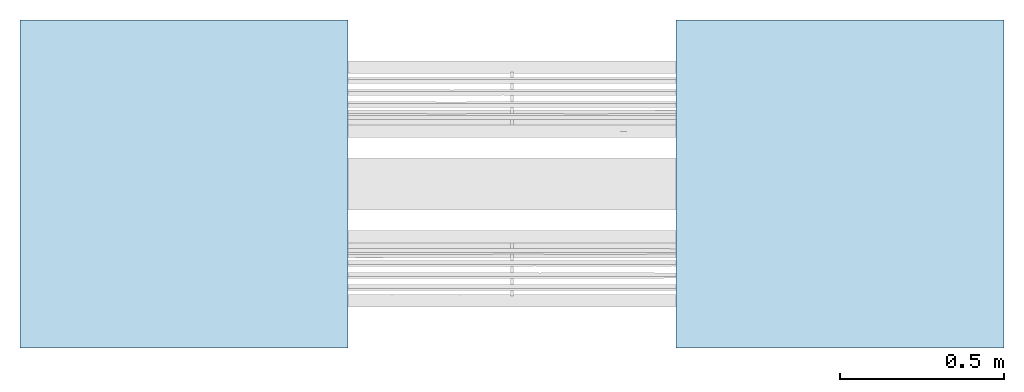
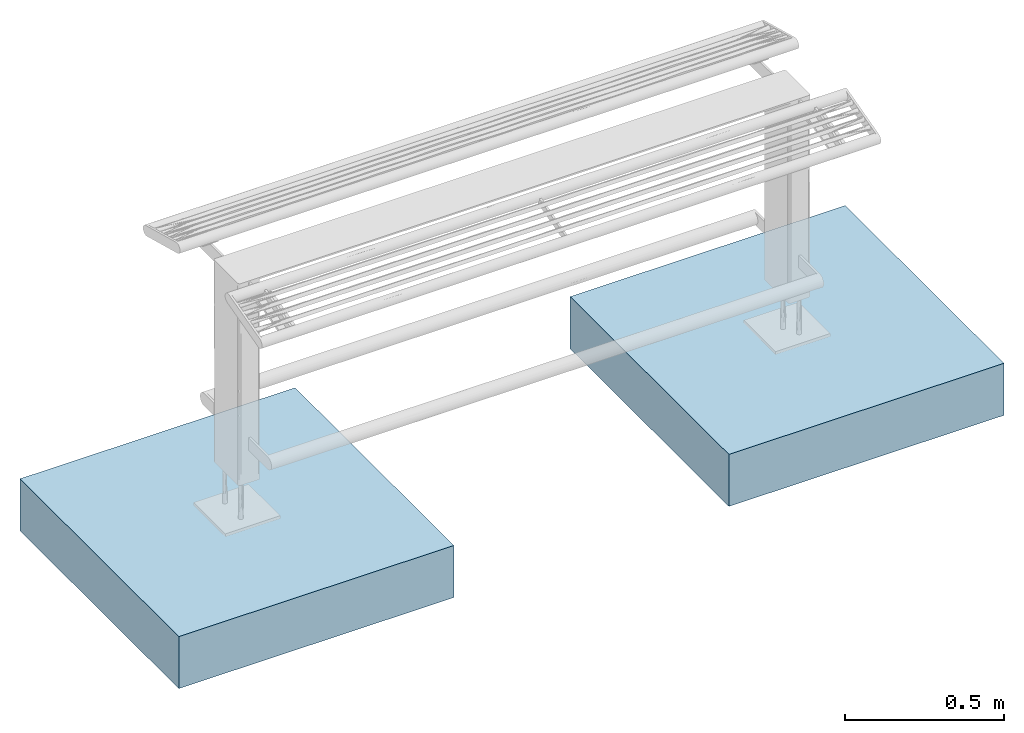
# One storey, incomplete: 2 slabs.
"""IFC4 building model written with IfcOpenShell, lengths in metres."""

from ifc_helpers import new_model, entity, si_unit, converted_unit, direction, frame, frame_2d, origin, place, context, subcontext, project, spatial, rectangle, extrude, material, type_object, element, save


model = new_model("IFC4")

# Units and contexts
model_context = context("Model", 3, precision=1e-05, world=origin(), true_north=direction((6.123031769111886e-17, 1.0)))
body_context = subcontext(model_context, "Body", "Model", "MODEL_VIEW")
ifc_project = project(units=[si_unit("LENGTHUNIT", "METRE"), converted_unit("PLANEANGLEUNIT", "DEGREE", entity("IfcPlaneAngleMeasure", 0.017453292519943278), si_unit("PLANEANGLEUNIT", "RADIAN"), dimensions=[0, 0, 0, 0, 0, 0, 0]), si_unit("AREAUNIT", "SQUARE_METRE")], contexts=[model_context])

# Site, building, storey
site_placement = place(None, origin())
site = spatial("IfcSite", under=ifc_project, at=site_placement, Name="Default", CompositionType="ELEMENT")
building_placement = place(site_placement, origin())
building = spatial("IfcBuilding", under=site, at=building_placement, CompositionType="ELEMENT")
storey_placement = place(building_placement, origin())
storey = spatial("IfcBuildingStorey", under=building, at=storey_placement, Name="Ebene 0", CompositionType="ELEMENT", Elevation=0.0)

# Slabs
ifc_material = material(Name="DB_Fertigbeton", Category="DB_Beton")
slab_type = type_object("IfcSlabType", Name="DB_Calidum_light_Fundament:DB_Calidum_light_Fundament", PredefinedType="BASESLAB", material=ifc_material)
slab_1_placement = place(storey_placement, origin())
element("IfcSlab", 1, at=slab_1_placement, inside=storey, type_object=slab_type, Name="DB_Calidum_light_Fundament:DB_Calidum_light_Fundament", ObjectType="DB_Calidum_light_Fundament:DB_Calidum_light_Fundament", PredefinedType="BASESLAB", context=body_context, shape_type="SweptSolid", body=[
    extrude(rectangle(XDim=0.9999999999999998, YDim=0.9999999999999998, at=frame_2d((0.0, -1.1102230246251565e-16), x_axis=(1.0, 0.0))), frame((1.0, 0.0, -0.3619999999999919), z_axis=(0.0, 0.0, 1.0), x_axis=(0.0, 1.0, 0.0)), (0.0, 0.0, 1.0), 0.2),
])
slab_2_placement = place(storey_placement, origin())
element("IfcSlab", 2, at=slab_2_placement, inside=storey, type_object=slab_type, Name="DB_Calidum_light_Fundament:DB_Calidum_light_Fundament", ObjectType="DB_Calidum_light_Fundament:DB_Calidum_light_Fundament", PredefinedType="BASESLAB", context=body_context, shape_type="SweptSolid", body=[
    extrude(rectangle(XDim=0.9999999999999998, YDim=0.9999999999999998, at=frame_2d((-2.7755575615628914e-17, 1.1102230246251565e-16), x_axis=(1.0, 0.0))), frame((-1.0, 0.0, -0.3619999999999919), z_axis=(0.0, 0.0, 1.0), x_axis=(0.0, 1.0, 0.0)), (0.0, 0.0, 1.0), 0.2),
])

save(model, "model.ifc")
